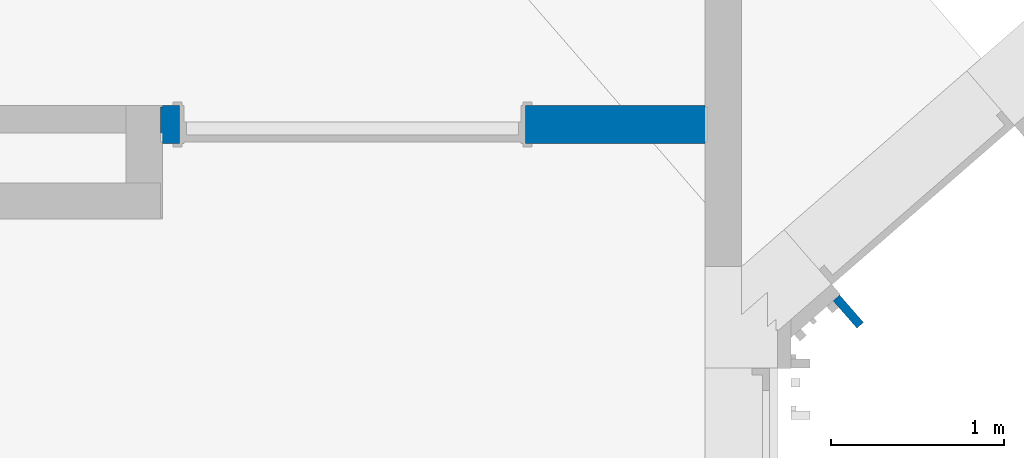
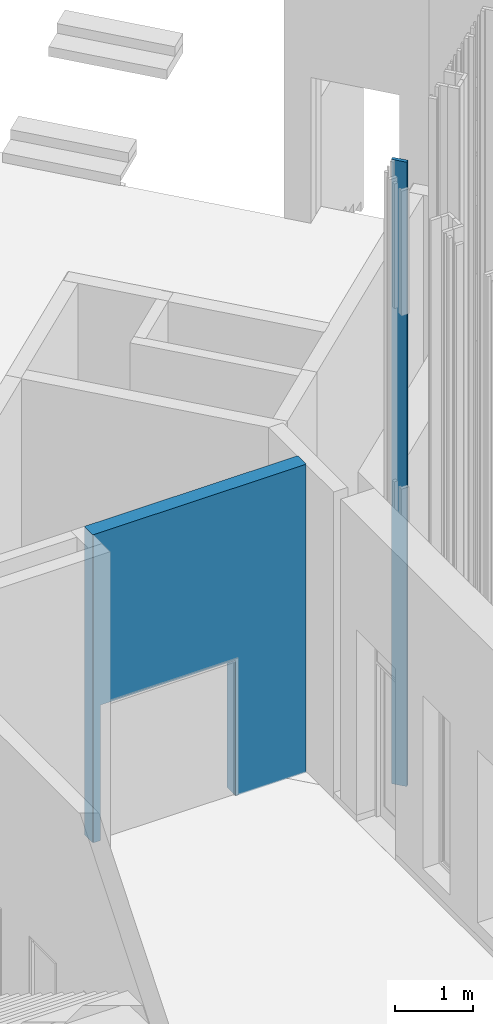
# One storey, part 194 of 390: 2 walls.
"""IFC2X3 building model written with IfcOpenShell, lengths in millimetres."""

from ifc_helpers import new_model, entity, si_unit, converted_unit, derived_unit, money_unit, direction, frame, origin_with_axes, place, context, subcontext, project, spatial, faceted_brep, material, material_list, type_object, element, save


model = new_model("IFC2X3")

# Units and contexts
model_context = context("Model", 3, precision=1e-05, world=origin_with_axes(), true_north=direction((0.0, 1.0)))
body_context = subcontext(model_context, "Body", "Model", "MODEL_VIEW")
ifc_project = project(units=[si_unit("LENGTHUNIT", "METRE", prefix="MILLI"), si_unit("AREAUNIT", "SQUARE_METRE"), si_unit("VOLUMEUNIT", "CUBIC_METRE"), converted_unit("PLANEANGLEUNIT", "DEGREE", entity("IfcPlaneAngleMeasure", 0.0174532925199), si_unit("PLANEANGLEUNIT", "RADIAN"), dimensions=[0, 0, 0, 0, 0, 0, 0]), si_unit("SOLIDANGLEUNIT", "STERADIAN"), money_unit("EUR"), converted_unit("TIMEUNIT", "Year", entity("IfcTimeMeasure", 31556926.0), si_unit("TIMEUNIT", "SECOND"), dimensions=[0, 0, 1, 0, 0, 0, 0]), si_unit("MASSUNIT", "GRAM", prefix="KILO"), si_unit("THERMODYNAMICTEMPERATUREUNIT", "DEGREE_CELSIUS"), si_unit("LUMINOUSINTENSITYUNIT", "LUMEN"), si_unit("ENERGYUNIT", "JOULE", prefix="MEGA"), derived_unit("THERMALCONDUCTANCEUNIT", [(si_unit("POWERUNIT", "WATT"), 1), (si_unit("LENGTHUNIT", "METRE"), -1), (si_unit("THERMODYNAMICTEMPERATUREUNIT", "KELVIN"), -1)]), derived_unit("SPECIFICHEATCAPACITYUNIT", [(si_unit("ENERGYUNIT", "JOULE"), 1), (si_unit("MASSUNIT", "GRAM", prefix="KILO"), -1), (si_unit("THERMODYNAMICTEMPERATUREUNIT", "KELVIN"), -1)]), derived_unit("MASSDENSITYUNIT", [(si_unit("MASSUNIT", "GRAM", prefix="KILO"), 1), (si_unit("VOLUMEUNIT", "CUBIC_METRE"), -1)])], contexts=[model_context])

# Site, building, storey
site_placement = place(None, origin_with_axes())
site = spatial("IfcSite", under=ifc_project, at=site_placement, Name="Site", CompositionType="ELEMENT")
building_placement = place(site_placement, origin_with_axes())
building = spatial("IfcBuilding", under=site, at=building_placement, Name="Building", CompositionType="ELEMENT")
storey_placement = place(building_placement, origin_with_axes())
storey = spatial("IfcBuildingStorey", under=building, at=storey_placement, Name="1 korrus", CompositionType="ELEMENT", Elevation=0.0)

# Walls
ifc_material_1 = material(Name="Krohv - Lubjakivi")
ifc_material_2 = material(Name="Raudbetoon - Konstruktsioon")
ifc_material_list = material_list([ifc_material_1, ifc_material_2, ifc_material_1])
wall_type_1 = type_object("IfcWallType", Name="SS-10", PredefinedType="NOTDEFINED")
wall_1_placement = place(storey_placement, frame((135939.99866, 67300.1749771, -20.0), z_axis=(0.0, 0.0, 1.0), x_axis=(1.0, 1.15091940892e-10, 0.0)))
element("IfcWall", 1, at=wall_1_placement, inside=storey, type_object=wall_type_1, material=ifc_material_list, Name="SS-10", context=body_context, shape_type="Brep", body=[
    faceted_brep([(310.001336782, 219.999999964, 2120.0), (310.001336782, 219.999999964, 20.0), (310.001336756, 219.999999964, 0.0), (209.998704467, 219.999999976, 0.0), (209.998704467, 219.999999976, 4820.0), (3350.00025239, 219.999999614, 4820.0), (3350.00025239, 219.999999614, 0.0), (2310.00133676, 219.999999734, 0.0), (2310.00133678, 219.999999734, 20.0), (2310.00133678, 219.999999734, 2120.0), (310.00133678, 209.999999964, 2120.0), (310.00133678, 209.999999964, 20.0), (310.001336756, 209.999999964, 0.0), (209.998763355, 209.999999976, 0.0), (209.998763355, 209.999999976, 4820.0), (3350.00026208, 209.999999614, 4820.0), (3350.00026208, 209.999999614, 0.0), (2310.00133676, 209.999999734, 0.0), (2310.00133678, 209.999999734, 20.0), (2310.00133678, 209.999999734, 2120.0)], [[[0, 1, 2, 3, 4, 5, 6, 7, 8, 9]], [[1, 0, 10, 11]], [[1, 11, 12, 2]], [[12, 13, 3, 2]], [[3, 13, 14, 4]], [[5, 4, 14, 15]], [[6, 5, 15, 16]], [[7, 6, 16, 17]], [[18, 8, 7, 17]], [[9, 8, 18, 19]], [[0, 9, 19, 10]], [[19, 18, 17, 16, 15, 14, 13, 12, 11, 10]]]),
    faceted_brep([(310.00133678, 209.999999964, 2120.0), (310.00133678, 209.999999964, 20.0), (310.001336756, 209.999999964, 0.0), (199.998763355, 209.999999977, 0.0), (199.998763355, 209.999999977, 4820.0), (3360.00026208, 209.999999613, 4820.0), (3360.00026208, 209.999999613, 0.0), (2310.00133676, 209.999999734, 0.0), (2310.00133678, 209.999999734, 20.0), (2310.00133678, 209.999999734, 2120.0), (310.001336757, 9.99999996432, 2120.0), (310.001336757, 9.99999996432, 20.0), (310.001336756, 9.99999996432, 0.0), (199.999941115, 9.99999997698, 0.0), (199.999941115, 9.99999997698, 4820.0), (3360.00045579, 9.9999996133, 4820.0), (3360.00045579, 9.9999996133, 0.0), (2310.00133676, 9.99999973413, 0.0), (2310.00133676, 9.99999973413, 20.0), (2310.00133676, 9.99999973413, 2120.0)], [[[0, 1, 2, 3, 4, 5, 6, 7, 8, 9]], [[1, 0, 10, 11]], [[1, 11, 12, 2]], [[12, 13, 3, 2]], [[3, 13, 14, 4]], [[5, 4, 14, 15]], [[6, 5, 15, 16]], [[7, 6, 16, 17]], [[18, 8, 7, 17]], [[9, 8, 18, 19]], [[0, 9, 19, 10]], [[19, 18, 17, 16, 15, 14, 13, 12, 11, 10]]]),
    faceted_brep([(310.001336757, 9.99999996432, 2120.0), (310.001336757, 9.99999996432, 20.0), (310.001336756, 9.99999996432, 0.0), (209.999941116, 9.99999997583, 0.0), (209.999941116, 9.99999997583, 4820.0), (3350.00045579, 9.99999961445, 4820.0), (3350.00045579, 9.99999961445, 0.0), (2310.00133676, 9.99999973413, 0.0), (2310.00133676, 9.99999973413, 20.0), (2310.00133676, 9.99999973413, 2120.0), (310.001336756, -3.56834561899e-08, 2120.0), (310.001336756, -3.56834561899e-08, 20.0), (310.001336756, -3.56834561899e-08, 0.0), (210.000000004, -2.41726638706e-08, 0.0), (210.000000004, -2.41726638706e-08, 4820.0), (3350.00046547, -3.85554699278e-07, 4820.0), (3350.00046547, -3.85554699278e-07, 0.0), (2310.00133676, -2.65870880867e-07, 0.0), (2310.00133676, -2.65870880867e-07, 20.0), (2310.00133676, -2.65870880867e-07, 2120.0)], [[[0, 1, 2, 3, 4, 5, 6, 7, 8, 9]], [[1, 0, 10, 11]], [[1, 11, 12, 2]], [[12, 13, 3, 2]], [[3, 13, 14, 4]], [[5, 4, 14, 15]], [[6, 5, 15, 16]], [[7, 6, 16, 17]], [[18, 8, 7, 17]], [[9, 8, 18, 19]], [[0, 9, 19, 10]], [[19, 18, 17, 16, 15, 14, 13, 12, 11, 10]]]),
])
ifc_material_3 = material(Name="Site specified")
wall_type_2 = type_object("IfcWallType", Name="Puitfassaadi ribistik", PredefinedType="NOTDEFINED")
wall_2_placement = place(storey_placement, frame((140117.818235, 66327.8392418, 100.0), z_axis=(0.0, 0.0, 1.0), x_axis=(-0.754709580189, -0.65605902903, 0.0)))
element("IfcWall", 2, at=wall_2_placement, inside=storey, type_object=wall_type_2, material=ifc_material_3, Name="Site specified", context=body_context, shape_type="Brep", body=[
    faceted_brep([(-25.0, -104.5, 9765.0), (-25.0, -104.5, 0.0), (25.0, -104.5, 0.0), (25.0, -104.5, 9765.0), (-25.0, 104.5, 9765.0), (-25.0, 104.5, 0.0), (25.0, 104.5, 0.0), (25.0, 104.5, 9765.0)], [[[0, 1, 2, 3]], [[4, 5, 1, 0]], [[2, 1, 5, 6]], [[3, 2, 6, 7]], [[4, 0, 3, 7]], [[7, 6, 5, 4]]]),
])

save(model, "model.ifc")
